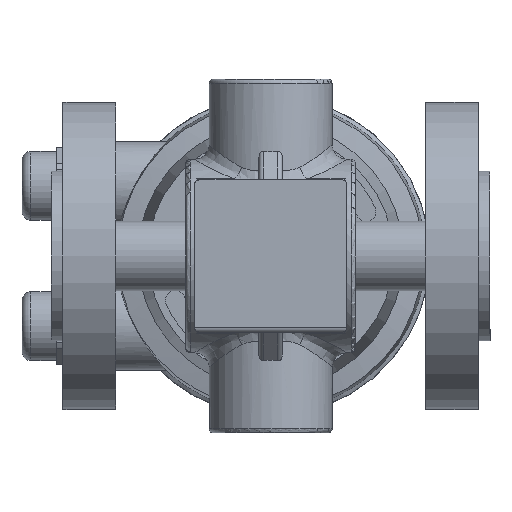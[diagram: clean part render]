
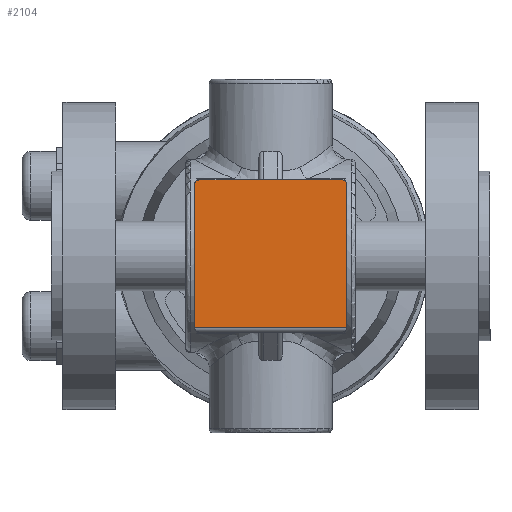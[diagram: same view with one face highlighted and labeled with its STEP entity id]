
A CAD part, front view. The second image highlights one B-rep face of the part: STEP entity #2104.
In plain terms, the highlighted planar face has unit normal (0, -1, 0).
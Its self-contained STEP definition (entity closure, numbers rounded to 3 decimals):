
#830 = EDGE_LOOP ( 'NONE', ( #12768, #12769, #12770, #12771, #12772, #12773 ) ) ;
#1607 = FACE_OUTER_BOUND ( 'NONE', #830, .T. ) ;
#2104 = ADVANCED_FACE ( 'NONE', ( #1607 ), #14799, .F. ) ;
#2344 = VERTEX_POINT ( 'NONE', #10592 ) ;
#2398 = VERTEX_POINT ( 'NONE', #10646 ) ;
#2438 = VERTEX_POINT ( 'NONE', #10686 ) ;
#2567 = AXIS2_PLACEMENT_3D ( 'NONE', #9608, #9614, #9615 ) ;
#2568 = AXIS2_PLACEMENT_3D ( 'NONE', #9604, #9612, #9613 ) ;
#2687 = VERTEX_POINT ( 'NONE', #10725 ) ;
#2696 = VERTEX_POINT ( 'NONE', #10728 ) ;
#6597 = EDGE_CURVE ( 'NONE', #14741, #2438, #13971, .T. ) ;
#6609 = EDGE_CURVE ( 'NONE', #2344, #2687, #14003, .T. ) ;
#6610 = EDGE_CURVE ( 'NONE', #2398, #2696, #14005, .T. ) ;
#6611 = EDGE_CURVE ( 'NONE', #14741, #2696, #14000, .T. ) ;
#6620 = EDGE_CURVE ( 'NONE', #2344, #2438, #14007, .T. ) ;
#7998 = EDGE_CURVE ( 'NONE', #2398, #2687, #14025, .T. ) ;
#8902 = AXIS2_PLACEMENT_3D ( 'NONE', #14786, #14804, #14805 ) ;
#9579 = CARTESIAN_POINT ( 'NONE',  ( -23.805, -156.017, -35.043 ) ) ;
#9585 = DIRECTION ( 'NONE',  ( 1., 0., 0. ) ) ;
#9604 = CARTESIAN_POINT ( 'NONE',  ( 29.695, -156.017, 13.957 ) ) ;
#9608 = CARTESIAN_POINT ( 'NONE',  ( -19.305, -156.017, 13.957 ) ) ;
#9612 = DIRECTION ( 'NONE',  ( 0., -1., 0. ) ) ;
#9613 = DIRECTION ( 'NONE',  ( 0., 0., -1. ) ) ;
#9614 = DIRECTION ( 'NONE',  ( 0., -1., 0. ) ) ;
#9615 = DIRECTION ( 'NONE',  ( 0., 0., -1. ) ) ;
#9616 = CARTESIAN_POINT ( 'NONE',  ( -20.805, -156.017, 15.457 ) ) ;
#9617 = DIRECTION ( 'NONE',  ( 0., 0., 1. ) ) ;
#9636 = CARTESIAN_POINT ( 'NONE',  ( 31.195, -156.017, 15.457 ) ) ;
#9637 = DIRECTION ( 'NONE',  ( 0., 0., -1. ) ) ;
#9716 = CARTESIAN_POINT ( 'NONE',  ( -23.805, -156.017, 15.457 ) ) ;
#9717 = DIRECTION ( 'NONE',  ( 1., 0., 0. ) ) ;
#10592 = CARTESIAN_POINT ( 'NONE',  ( 31.195, -156.017, 13.957 ) ) ;
#10646 = CARTESIAN_POINT ( 'NONE',  ( -19.305, -156.017, 15.457 ) ) ;
#10686 = CARTESIAN_POINT ( 'NONE',  ( 31.195, -156.017, -35.043 ) ) ;
#10725 = CARTESIAN_POINT ( 'NONE',  ( 29.695, -156.017, 15.457 ) ) ;
#10728 = CARTESIAN_POINT ( 'NONE',  ( -20.805, -156.017, 13.957 ) ) ;
#12768 = ORIENTED_EDGE ( 'NONE', *, *, #6620, .F. ) ;
#12769 = ORIENTED_EDGE ( 'NONE', *, *, #6609, .T. ) ;
#12770 = ORIENTED_EDGE ( 'NONE', *, *, #7998, .F. ) ;
#12771 = ORIENTED_EDGE ( 'NONE', *, *, #6610, .T. ) ;
#12772 = ORIENTED_EDGE ( 'NONE', *, *, #6611, .F. ) ;
#12773 = ORIENTED_EDGE ( 'NONE', *, *, #6597, .T. ) ;
#13971 = LINE ( 'NONE', #9579, #13981 ) ;
#13981 = VECTOR ( 'NONE', #9585, 1000. ) ;
#13997 = VECTOR ( 'NONE', #9637, 1000. ) ;
#14000 = LINE ( 'NONE', #9616, #14002 ) ;
#14002 = VECTOR ( 'NONE', #9617, 1000. ) ;
#14003 = CIRCLE ( 'NONE', #2568, 1.5 ) ;
#14005 = CIRCLE ( 'NONE', #2567, 1.5 ) ;
#14007 = LINE ( 'NONE', #9636, #13997 ) ;
#14025 = LINE ( 'NONE', #9716, #14026 ) ;
#14026 = VECTOR ( 'NONE', #9717, 1000. ) ;
#14741 = VERTEX_POINT ( 'NONE', #19472 ) ;
#14786 = CARTESIAN_POINT ( 'NONE',  ( -23.805, -156.017, 15.457 ) ) ;
#14799 = PLANE ( 'NONE',  #8902 ) ;
#14804 = DIRECTION ( 'NONE',  ( 0., 1., 0. ) ) ;
#14805 = DIRECTION ( 'NONE',  ( 0., 0., -1. ) ) ;
#19472 = CARTESIAN_POINT ( 'NONE',  ( -20.805, -156.017, -35.043 ) ) ;
